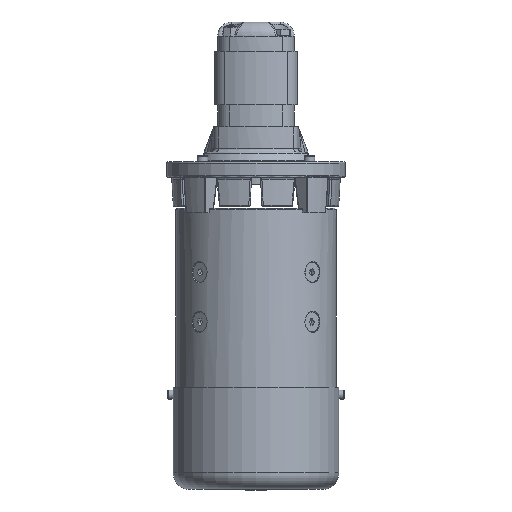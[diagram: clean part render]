
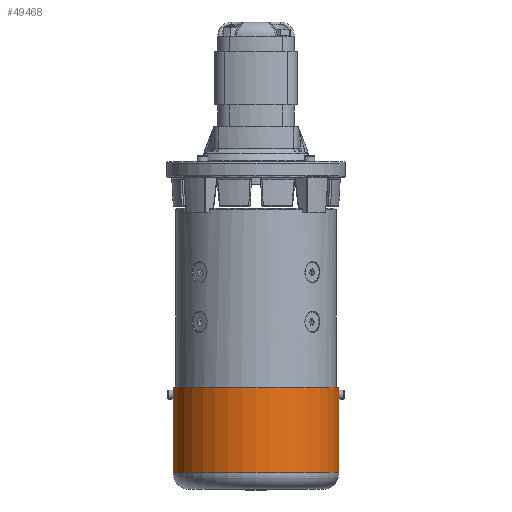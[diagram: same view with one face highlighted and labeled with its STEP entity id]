
A CAD part, front view. The second image highlights one B-rep face of the part: STEP entity #49468.
In plain terms, the highlighted cylindrical face has radius 65 mm (diameter 130 mm), a partial arc.
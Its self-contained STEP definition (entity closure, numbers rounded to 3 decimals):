
#424=B_SPLINE_CURVE_WITH_KNOTS('',3,(#72587,#72588,#72589,#72590,#72591,
#72592,#72593,#72594,#72595,#72596),.UNSPECIFIED.,.F.,.F.,(4,2,2,2,4),(0.949,
1.028,1.108,1.187,1.266),
 .UNSPECIFIED.);
#425=B_SPLINE_CURVE_WITH_KNOTS('',3,(#72598,#72599,#72600,#72601,#72602,
#72603,#72604,#72605,#72606,#72607),.UNSPECIFIED.,.F.,.F.,(4,2,2,2,4),(0.,
0.079,0.158,0.237,0.316),
 .UNSPECIFIED.);
#426=B_SPLINE_CURVE_WITH_KNOTS('',3,(#72619,#72620,#72621,#72622,#72623,
#72624,#72625,#72626,#72627,#72628,#72629,#72630,#72631,#72632,#72633,#72634,
#72635,#72636,#72637),.UNSPECIFIED.,.F.,.F.,(4,2,2,2,3,2,2,2,4),(0.949,
1.028,1.108,1.187,1.266,1.345,
1.424,1.503,1.582),.UNSPECIFIED.);
#3334=CYLINDRICAL_SURFACE('',#52381,65.);
#4003=FACE_OUTER_BOUND('',#6668,.T.);
#6668=EDGE_LOOP('',(#33236,#33237,#33238,#33239,#33240,#33241,#33242,#33243,
#33244,#33245,#33246,#33247,#33248));
#9874=LINE('',#72579,#13821);
#9875=LINE('',#72583,#13822);
#9876=LINE('',#72585,#13823);
#9877=LINE('',#72609,#13824);
#9878=LINE('',#72611,#13825);
#9879=LINE('',#72615,#13826);
#9880=LINE('',#72617,#13827);
#9881=LINE('',#72638,#13828);
#13821=VECTOR('',#58485,65.);
#13822=VECTOR('',#58488,65.);
#13823=VECTOR('',#58489,10.);
#13824=VECTOR('',#58490,10.);
#13825=VECTOR('',#58491,65.);
#13826=VECTOR('',#58494,65.);
#13827=VECTOR('',#58495,10.);
#13828=VECTOR('',#58496,10.);
#17428=CIRCLE('',#52382,65.);
#17429=CIRCLE('',#52383,65.);
#20201=VERTEX_POINT('',#72577);
#20202=VERTEX_POINT('',#72578);
#20203=VERTEX_POINT('',#72580);
#20204=VERTEX_POINT('',#72582);
#20205=VERTEX_POINT('',#72584);
#20206=VERTEX_POINT('',#72586);
#20207=VERTEX_POINT('',#72597);
#20208=VERTEX_POINT('',#72608);
#20209=VERTEX_POINT('',#72610);
#20210=VERTEX_POINT('',#72612);
#20211=VERTEX_POINT('',#72614);
#20212=VERTEX_POINT('',#72616);
#20213=VERTEX_POINT('',#72618);
#25117=EDGE_CURVE('',#20201,#20202,#9874,.T.);
#25118=EDGE_CURVE('',#20201,#20203,#17428,.T.);
#25119=EDGE_CURVE('',#20204,#20203,#9875,.T.);
#25120=EDGE_CURVE('',#20204,#20205,#9876,.T.);
#25121=EDGE_CURVE('',#20205,#20206,#424,.T.);
#25122=EDGE_CURVE('',#20206,#20207,#425,.T.);
#25123=EDGE_CURVE('',#20207,#20208,#9877,.T.);
#25124=EDGE_CURVE('',#20209,#20208,#9878,.T.);
#25125=EDGE_CURVE('',#20210,#20209,#17429,.T.);
#25126=EDGE_CURVE('',#20211,#20210,#9879,.T.);
#25127=EDGE_CURVE('',#20212,#20211,#9880,.T.);
#25128=EDGE_CURVE('',#20212,#20213,#426,.T.);
#25129=EDGE_CURVE('',#20202,#20213,#9881,.T.);
#33236=ORIENTED_EDGE('',*,*,#25117,.F.);
#33237=ORIENTED_EDGE('',*,*,#25118,.T.);
#33238=ORIENTED_EDGE('',*,*,#25119,.F.);
#33239=ORIENTED_EDGE('',*,*,#25120,.T.);
#33240=ORIENTED_EDGE('',*,*,#25121,.T.);
#33241=ORIENTED_EDGE('',*,*,#25122,.T.);
#33242=ORIENTED_EDGE('',*,*,#25123,.T.);
#33243=ORIENTED_EDGE('',*,*,#25124,.F.);
#33244=ORIENTED_EDGE('',*,*,#25125,.F.);
#33245=ORIENTED_EDGE('',*,*,#25126,.F.);
#33246=ORIENTED_EDGE('',*,*,#25127,.F.);
#33247=ORIENTED_EDGE('',*,*,#25128,.T.);
#33248=ORIENTED_EDGE('',*,*,#25129,.F.);
#49468=ADVANCED_FACE('',(#4003),#3334,.T.);
#52381=AXIS2_PLACEMENT_3D('',#72576,#58483,#58484);
#52382=AXIS2_PLACEMENT_3D('',#72581,#58486,#58487);
#52383=AXIS2_PLACEMENT_3D('',#72613,#58492,#58493);
#58483=DIRECTION('center_axis',(0.,0.,
-1.));
#58484=DIRECTION('ref_axis',(-1.,0.,0.));
#58485=DIRECTION('',(0.,0.,-1.));
#58486=DIRECTION('center_axis',(0.,0.,
-1.));
#58487=DIRECTION('ref_axis',(1.,0.,0.));
#58488=DIRECTION('',(0.,0.,1.));
#58489=DIRECTION('',(0.,0.,-1.));
#58490=DIRECTION('',(0.,0.,-1.));
#58491=DIRECTION('',(0.,0.,1.));
#58492=DIRECTION('center_axis',(0.,0.,
-1.));
#58493=DIRECTION('ref_axis',(1.,0.,0.));
#58494=DIRECTION('',(0.,0.,-1.));
#58495=DIRECTION('',(0.,0.,-1.));
#58496=DIRECTION('',(0.,0.,-1.));
#72576=CARTESIAN_POINT('Origin',(0.,0.,
-198.2));
#72577=CARTESIAN_POINT('',(65.,0.,-164.7));
#72578=CARTESIAN_POINT('',(65.,0.,-167.));
#72579=CARTESIAN_POINT('',(65.,0.,-198.2));
#72580=CARTESIAN_POINT('',(-65.,0.,-164.7));
#72581=CARTESIAN_POINT('Origin',(0.,0.,
-164.7));
#72582=CARTESIAN_POINT('',(-65.,0.,-167.));
#72583=CARTESIAN_POINT('',(-65.,0.,-198.2));
#72584=CARTESIAN_POINT('',(-65.,0.,-168.4));
#72585=CARTESIAN_POINT('',(-65.,0.,-198.2));
#72586=CARTESIAN_POINT('',(-64.966,-2.1,-170.5));
#72587=CARTESIAN_POINT('Ctrl Pts',(-65.,0.,
-168.4));
#72588=CARTESIAN_POINT('Ctrl Pts',(-65.,-0.264,
-168.4));
#72589=CARTESIAN_POINT('Ctrl Pts',(-64.998,-0.545,
-168.453));
#72590=CARTESIAN_POINT('Ctrl Pts',(-64.992,-1.062,
-168.667));
#72591=CARTESIAN_POINT('Ctrl Pts',(-64.987,-1.298,-168.829));
#72592=CARTESIAN_POINT('Ctrl Pts',(-64.979,-1.671,
-169.202));
#72593=CARTESIAN_POINT('Ctrl Pts',(-64.974,-1.833,
-169.438));
#72594=CARTESIAN_POINT('Ctrl Pts',(-64.968,-2.047,
-169.955));
#72595=CARTESIAN_POINT('Ctrl Pts',(-64.966,-2.1,
-170.236));
#72596=CARTESIAN_POINT('Ctrl Pts',(-64.966,-2.1,
-170.5));
#72597=CARTESIAN_POINT('',(-65.,0.,-172.6));
#72598=CARTESIAN_POINT('Ctrl Pts',(-64.966,-2.1,
-170.5));
#72599=CARTESIAN_POINT('Ctrl Pts',(-64.966,-2.1,
-170.764));
#72600=CARTESIAN_POINT('Ctrl Pts',(-64.968,-2.047,
-171.045));
#72601=CARTESIAN_POINT('Ctrl Pts',(-64.974,-1.833,
-171.562));
#72602=CARTESIAN_POINT('Ctrl Pts',(-64.979,-1.671,
-171.798));
#72603=CARTESIAN_POINT('Ctrl Pts',(-64.987,-1.298,-172.171));
#72604=CARTESIAN_POINT('Ctrl Pts',(-64.992,-1.062,
-172.333));
#72605=CARTESIAN_POINT('Ctrl Pts',(-64.998,-0.545,
-172.547));
#72606=CARTESIAN_POINT('Ctrl Pts',(-65.,-0.264,
-172.6));
#72607=CARTESIAN_POINT('Ctrl Pts',(-65.,0.,
-172.6));
#72608=CARTESIAN_POINT('',(-65.,0.,-174.));
#72609=CARTESIAN_POINT('',(-65.,0.,-198.2));
#72610=CARTESIAN_POINT('',(-65.,0.,-231.7));
#72611=CARTESIAN_POINT('',(-65.,0.,-198.2));
#72612=CARTESIAN_POINT('',(65.,0.,-231.7));
#72613=CARTESIAN_POINT('Origin',(0.,0.,
-231.7));
#72614=CARTESIAN_POINT('',(65.,0.,-174.));
#72615=CARTESIAN_POINT('',(65.,0.,-198.2));
#72616=CARTESIAN_POINT('',(65.,0.,-172.6));
#72617=CARTESIAN_POINT('',(65.,0.,-198.2));
#72618=CARTESIAN_POINT('',(65.,0.,-168.4));
#72619=CARTESIAN_POINT('Ctrl Pts',(65.,0.,
-172.6));
#72620=CARTESIAN_POINT('Ctrl Pts',(65.,-0.264,
-172.6));
#72621=CARTESIAN_POINT('Ctrl Pts',(64.998,-0.545,
-172.547));
#72622=CARTESIAN_POINT('Ctrl Pts',(64.992,-1.062,-172.333));
#72623=CARTESIAN_POINT('Ctrl Pts',(64.987,-1.298,-172.171));
#72624=CARTESIAN_POINT('Ctrl Pts',(64.979,-1.671,-171.798));
#72625=CARTESIAN_POINT('Ctrl Pts',(64.974,-1.833,-171.562));
#72626=CARTESIAN_POINT('Ctrl Pts',(64.968,-2.047,-171.045));
#72627=CARTESIAN_POINT('Ctrl Pts',(64.966,-2.1,-170.764));
#72628=CARTESIAN_POINT('Ctrl Pts',(64.966,-2.1,-170.5));
#72629=CARTESIAN_POINT('Ctrl Pts',(64.966,-2.1,-170.236));
#72630=CARTESIAN_POINT('Ctrl Pts',(64.968,-2.047,-169.955));
#72631=CARTESIAN_POINT('Ctrl Pts',(64.974,-1.833,-169.438));
#72632=CARTESIAN_POINT('Ctrl Pts',(64.979,-1.671,-169.202));
#72633=CARTESIAN_POINT('Ctrl Pts',(64.987,-1.298,-168.829));
#72634=CARTESIAN_POINT('Ctrl Pts',(64.992,-1.062,-168.667));
#72635=CARTESIAN_POINT('Ctrl Pts',(64.998,-0.545,
-168.453));
#72636=CARTESIAN_POINT('Ctrl Pts',(65.,-0.264,
-168.4));
#72637=CARTESIAN_POINT('Ctrl Pts',(65.,0.,
-168.4));
#72638=CARTESIAN_POINT('',(65.,0.,-198.2));
